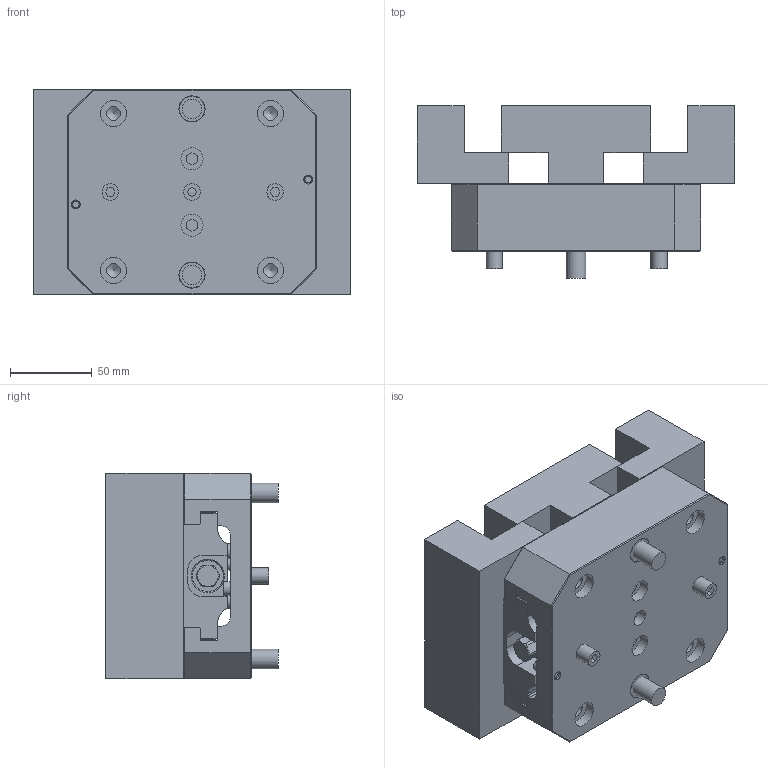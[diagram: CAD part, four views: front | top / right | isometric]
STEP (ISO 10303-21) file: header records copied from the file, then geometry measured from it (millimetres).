
FILE_DESCRIPTION (( 'STEP AP214' ), '1' );
FILE_NAME ('DV56-J3_WEBSITE.STEP', '2025-08-11T10:52:31', ( '' ), ( '' ), 'SwSTEP 2.0', 'SolidWorks 2024', '' );
FILE_SCHEMA (( 'AUTOMOTIVE_DESIGN' ));
Length unit declared in the file: inch
Products named in the file (21): HW.76300_WEBSITE_76300; HW.BASE.PLUG.M8-1.25_WEBSITE_90278A411; VSJ-DV56-M_WEBSITE_VSJ-DV56-M; HW.LC049E03S_WEBSITE_DEFAULT; HW.0375.FP_WEBSITE; V562M-2_WEBSITE_FINAL RIGHT -2RDV; V562DV-1_WEBSITE_V562DV-1; 76384_WEBSITE_91290A233; V562M-2_WEBSITE_FINAL LEFT; 450-12_WEBSITE; VSJ-DV56-F_WEBSITE_VSJ-DV56-F; HW.M8X12.EPSS_WEBSITE_92775A312; DV56-MJ-S_WEBSITE; LP10_WEBSITE_LP10; HW.M8X12.DP_WEBSITE_DEFAULT; DV56^DV56-J3_WEBSITE_-JX; DV56-J3_WEBSITE; V562M-4_WEBSITE_V562M-4; LP8_WEBSITE_LP8; HW.76400_WEBSITE_91290A635; HW.0875X0750.DB_WEBSITE_8491A501
Assembly tree (37 placements, depth 3):
  DV56-J3_WEBSITE
    DV56^DV56-J3_WEBSITE_-JX
      V562DV-1_WEBSITE_V562DV-1
      V562M-2_WEBSITE_FINAL RIGHT -2RDV
      V562M-2_WEBSITE_FINAL LEFT
      V562M-4_WEBSITE_V562M-4
      HW.BASE.PLUG.M8-1.25_WEBSITE_90278A411  x2
      HW.0875X0750.DB_WEBSITE_8491A501  x2
      HW.M8X12.DP_WEBSITE_DEFAULT  x4
      HW.LC049E03S_WEBSITE_DEFAULT  x2
      HW.M8X12.EPSS_WEBSITE_92775A312  x2
      HW.0375.FP_WEBSITE  x2
      LP8_WEBSITE_LP8  x2
      LP10_WEBSITE_LP10  x2
      76384_WEBSITE_91290A233  x2
      HW.76400_WEBSITE_91290A635  x2
      450-12_WEBSITE  x2
    DV56-MJ-S_WEBSITE
      VSJ-DV56-M_WEBSITE_VSJ-DV56-M  x2
      VSJ-DV56-F_WEBSITE_VSJ-DV56-F
      HW.76300_WEBSITE_76300  x4
Bounding box: 193.9 x 105.48 x 125.73 mm (x, y, z)
Volume: 1469171.4 mm3; surface area: 264127.6 mm2
Topology: 35 solids, 35 shells, 697 faces, 1508 edges, 946 vertices
Faces by surface type: plane 398, cylinder 165, cone 113, bspline 11, sphere 8, torus 2
Full cylindrical faces by diameter (mm): 3.454 x1, 4.166 x1, 4.2 x2, 4.743 x2, 5 x5, 5.5 x2, 5.969 x2, 6 x2, 6.8 x6, 7.137 x2, 7.992 x2, 8 x8, 8.019 x4, 8.024 x4, 8.128 x2, 8.5 x8, 8.912 x2, 9.144 x2, 9.474 x2, 9.576 x4, 9.957 x2, 10 x6, 10.013 x5, 10.2 x2, 10.719 x4, 12 x4, 13.487 x2, 13.894 x4, 14 x2, 14.288 x2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
Entity records: 17243 total; most frequent: CARTESIAN_POINT 4557, DIRECTION 2267, ORIENTED_EDGE 1924, EDGE_CURVE 962, AXIS2_PLACEMENT_3D 855, EDGE_LOOP 727, VERTEX_POINT 681, FACE_OUTER_BOUND 595
